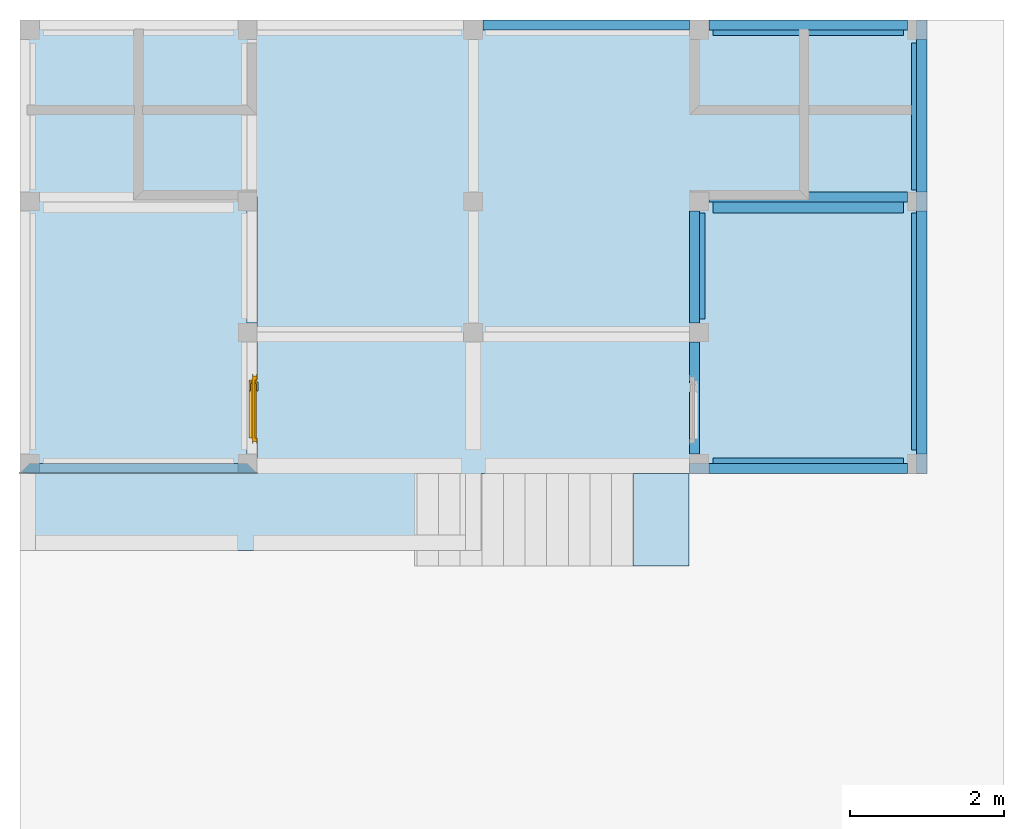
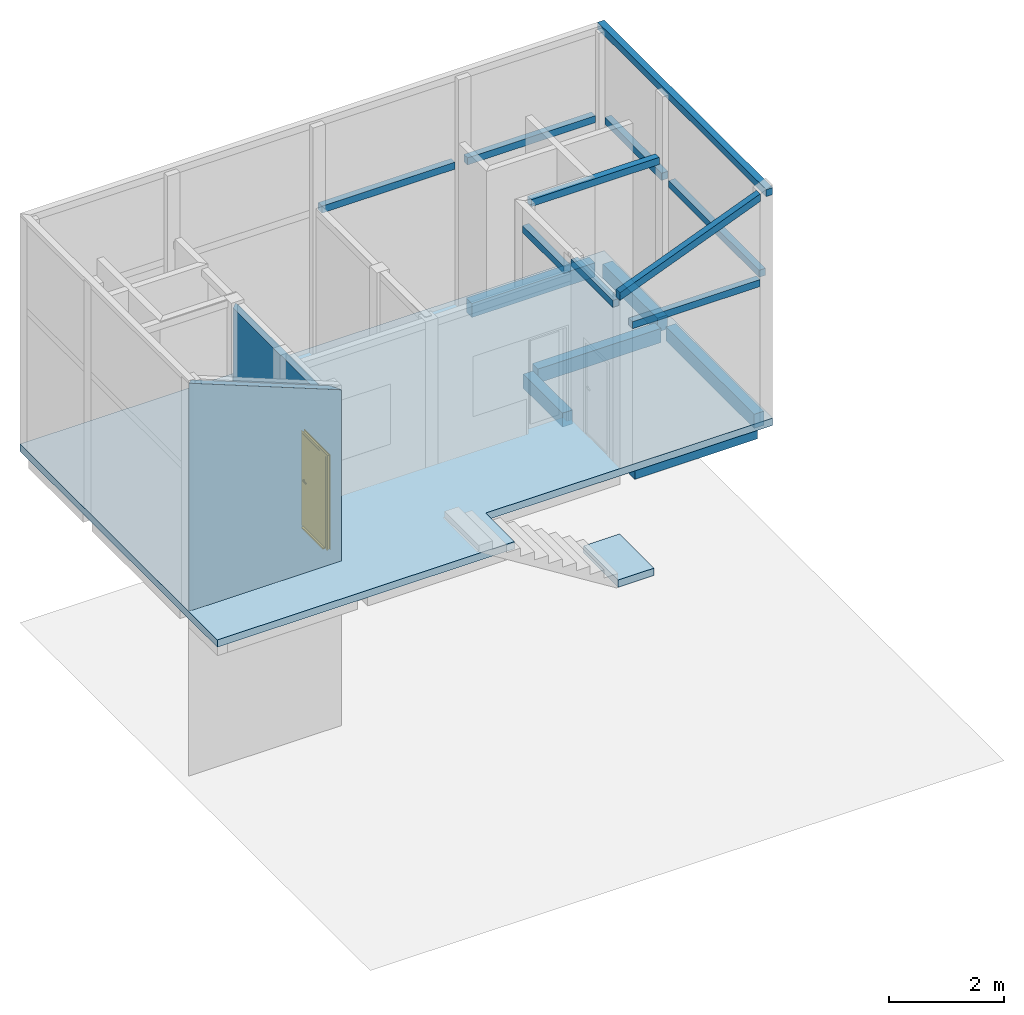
# One storey, part 2 of 8: 16 beams, 2 slabs, 2 walls, 1 door, 1 opening, 1 element without a shape of its own.
"""IFC4X3_ADD2 building model written with IfcOpenShell, lengths in millimetres."""

from ifc_helpers import new_model, entity, si_unit, converted_unit, frame, origin_with_axes, origin_2d_with_axis, place, context, subcontext, project, spatial, line, indexed_curve, rectangle, outline, extrude, clip, halfspace, shape, source, transform, mapped, material, layer, layer_set, layer_usage, material_profile, profile_set, profile_usage, type_object, type_shapes, element, fill, aggregate, save


model = new_model("IFC4X3_ADD2")

# Units and contexts
model_context = context("Model", 3, precision=1e-05, world=origin_with_axes())
plan_context = context("Plan", 2, precision=1e-05, world=origin_2d_with_axis())
body_context_1 = subcontext(model_context, "Body", "Model", "MODEL_VIEW")
body_context_2 = subcontext(plan_context, "Body", "Plan", "PLAN_VIEW")
ifc_project = project(units=[si_unit("VOLUMEUNIT", "CUBIC_METRE"), si_unit("LENGTHUNIT", "METRE", prefix="MILLI"), converted_unit("PLANEANGLEUNIT", "degree", entity("IfcReal", 0.0174532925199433), si_unit("PLANEANGLEUNIT", "RADIAN"), dimensions=[0, 0, 0, 0, 0, 0, 0]), si_unit("AREAUNIT", "SQUARE_METRE")], contexts=[model_context, plan_context])

# Site, building, storey
site_placement = place(None, origin_with_axes())
site = spatial("IfcSite", under=ifc_project, at=site_placement, Name="My Site")
building_placement = place(site_placement, origin_with_axes())
building = spatial("IfcBuilding", under=site, at=building_placement, Name="My Building")
storey_placement = place(building_placement, origin_with_axes())
storey = spatial("IfcBuildingStorey", under=building, at=storey_placement, Name="Lantai 2")

# Beams
ifc_material_1 = material(Name="plester")
ifc_material_profile_1 = material_profile(ifc_material_1, rectangle(XDim=200.0, YDim=300.0))
ifc_profile_set_1 = profile_set([ifc_material_profile_1])
ifc_profile_usage_1 = profile_usage(ifc_profile_set_1, cardinal=9)
beam_type_1 = type_object("IfcBeamType", Name="TB1", PredefinedType="BEAM", material=ifc_profile_set_1)
beam_1_placement = place(storey_placement, frame((8819.99969482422, -150.000005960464, 3465.00015258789), z_axis=(0.999999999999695, -5.52334768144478e-07, 5.52335052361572e-07), x_axis=(5.52335052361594e-07, 0.999999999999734, -4.76836987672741e-07)))
element("IfcBeam", 1, at=beam_1_placement, inside=storey, type_object=beam_type_1, material=ifc_profile_usage_1, Name="Beam", context=body_context_1, shape_type="SweptSolid", body=[
    extrude(rectangle(XDim=200.0, YDim=300.0), frame((100.0, -150.0, 0.0), z_axis=(0.0, 0.0, 1.0), x_axis=(1.0, 0.0, 0.0)), (0.0, 0.0, 1.0), 2470.00119336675),
])
ifc_profile_usage_2 = profile_usage(ifc_profile_set_1, cardinal=9)
beam_2_placement = place(storey_placement, frame((11590.0001525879, 150.000005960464, 3465.00015258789), z_axis=(-1.5099578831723e-07, 0.999999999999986, 7.54979012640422e-08), x_axis=(-0.999999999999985, -1.50995802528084e-07, 8.74228405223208e-08)))
element("IfcBeam", 2, at=beam_2_placement, inside=storey, type_object=beam_type_1, material=ifc_profile_usage_2, Name="Beam", context=body_context_1, shape_type="SweptSolid", body=[
    extrude(rectangle(XDim=200.0, YDim=300.0), frame((100.0, -150.0, 0.0), z_axis=(0.0, 0.0, 1.0), x_axis=(1.0, 0.0, 0.0)), (0.0, 0.0, 1.0), 3069.99969830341),
])
ifc_profile_usage_3 = profile_usage(ifc_profile_set_1, cardinal=9)
beam_3_placement = place(storey_placement, frame((11290.0009155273, 5719.99979019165, 3465.00015258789), z_axis=(-0.999999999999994, -7.54979012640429e-08, 7.54979012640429e-08), x_axis=(7.54979012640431e-08, -0.999999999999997, -7.16093850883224e-15)))
element("IfcBeam", 3, at=beam_3_placement, inside=storey, type_object=beam_type_1, material=ifc_profile_usage_3, Name="Beam", context=body_context_1, shape_type="SweptSolid", body=[
    extrude(rectangle(XDim=200.0, YDim=300.0), frame((100.0, -150.0, 0.0), z_axis=(0.0, 0.0, 1.0), x_axis=(1.0, 0.0, 0.0)), (0.0, 0.0, 1.0), 2470.00119336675),
])
ifc_profile_usage_4 = profile_usage(ifc_profile_set_1, cardinal=9)
beam_4_placement = place(storey_placement, frame((8819.99969482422, 3219.99979019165, 3465.00015258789), z_axis=(0.999999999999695, -5.52334768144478e-07, 5.52335052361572e-07), x_axis=(5.52335052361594e-07, 0.999999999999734, -4.76836987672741e-07)))
element("IfcBeam", 4, at=beam_4_placement, inside=storey, type_object=beam_type_1, material=ifc_profile_usage_4, Name="Beam", context=body_context_1, shape_type="SweptSolid", body=[
    extrude(rectangle(XDim=200.0, YDim=300.0), frame((100.0, -150.0, 0.0), z_axis=(0.0, 0.0, 1.0), x_axis=(1.0, 0.0, 0.0)), (0.0, 0.0, 1.0), 2470.00119336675),
])
ifc_profile_usage_5 = profile_usage(ifc_profile_set_1, cardinal=9)
beam_5_placement = place(storey_placement, frame((11590.0001525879, 3519.99998092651, 3465.00015258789), z_axis=(-1.5099578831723e-07, 0.999999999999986, 7.54979012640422e-08), x_axis=(-0.999999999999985, -1.50995802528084e-07, 8.74228405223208e-08)))
element("IfcBeam", 5, at=beam_5_placement, inside=storey, type_object=beam_type_1, material=ifc_profile_usage_5, Name="Beam", context=body_context_1, shape_type="SweptSolid", body=[
    extrude(rectangle(XDim=200.0, YDim=300.0), frame((100.0, -150.0, 0.0), z_axis=(0.0, 0.0, 1.0), x_axis=(1.0, 0.0, 0.0)), (0.0, 0.0, 1.0), 1899.99959594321),
])
ifc_profile_usage_6 = profile_usage(ifc_profile_set_1, cardinal=9)
beam_6_placement = place(storey_placement, frame((8520.00045776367, 3219.99979019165, 3465.00015258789), z_axis=(0.0, -0.999999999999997, 7.54979012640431e-08), x_axis=(1.0, 0.0, 0.0)))
element("IfcBeam", 6, at=beam_6_placement, inside=storey, type_object=beam_type_1, material=ifc_profile_usage_6, Name="Beam", context=body_context_1, shape_type="SweptSolid", body=[
    extrude(rectangle(XDim=200.0, YDim=300.0), frame((100.0, -150.0, 0.0), z_axis=(0.0, 0.0, 1.0), x_axis=(1.0, 0.0, 0.0)), (0.0, 0.0, 1.0), 1369.9999845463),
])
ifc_material_profile_2 = material_profile(ifc_material_1, rectangle(XDim=130.000015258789, YDim=150.0))
ifc_profile_set_2 = profile_set([ifc_material_profile_2])
ifc_profile_usage_7 = profile_usage(ifc_profile_set_2, cardinal=9)
beam_type_2 = type_object("IfcBeamType", Name="RB", PredefinedType="BEAM", material=ifc_profile_set_2)
beam_7_placement = place(storey_placement, frame((8380.53131103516, -150.998771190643, 7179.43334579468), z_axis=(0.929791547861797, -1.97479659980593e-07, 0.368086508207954), x_axis=(1.94707183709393e-07, 0.99999999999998, 4.46704007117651e-08)))
element("IfcBeam", 7, at=beam_7_placement, inside=storey, type_object=beam_type_2, material=ifc_profile_usage_7, Name="Beam", context=body_context_1, shape_type="Clipping", body=[
    clip(clip(extrude(rectangle(XDim=130.000015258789, YDim=150.0), frame((65.0000076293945, -75.0, 0.0), z_axis=(0.0, 0.0, 1.0), x_axis=(1.0, 0.0, 0.0)), (0.0, 0.0, 1.0), 3332.93833577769), halfspace(frame((125.999629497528, -4510.44654846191, 1397.33922481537), z_axis=(1.94707169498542e-07, -0.368086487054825, 0.929791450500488), x_axis=(-0.99999999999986, -5.28971250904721e-07, 0.0)), False)), halfspace(frame((125.999078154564, -3472.44238853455, -1224.67291355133), z_axis=(-1.94707169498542e-07, 0.368086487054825, -0.929791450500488), x_axis=(0.99999999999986, 5.28971250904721e-07, 0.0)), False)),
])
ifc_profile_usage_8 = profile_usage(ifc_profile_set_2, cardinal=9)
beam_8_placement = place(storey_placement, frame((11590.0020599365, -150.999471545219, 8398.53572845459), z_axis=(-8.74227765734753e-08, 0.999999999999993, 7.54979012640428e-08), x_axis=(-0.999999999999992, -8.74227765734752e-08, 8.74227836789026e-08)))
element("IfcBeam", 8, at=beam_8_placement, inside=storey, type_object=beam_type_2, material=ifc_profile_usage_8, Name="Beam", context=body_context_1, shape_type="SweptSolid", body=[
    extrude(rectangle(XDim=130.000015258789, YDim=150.0), frame((65.0000076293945, -75.0, 0.0), z_axis=(0.0, 0.0, 1.0), x_axis=(1.0, 0.0, 0.0)), (0.0, 0.0, 1.0), 5870.97029768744),
])
ifc_profile_usage_9 = profile_usage(ifc_profile_set_2, cardinal=9)
beam_9_placement = place(storey_placement, frame((8770.00045776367, -149.999976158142, 6532.21082687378), z_axis=(0.999999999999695, -5.52334768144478e-07, 5.52335052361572e-07), x_axis=(5.52335052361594e-07, 0.999999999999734, -4.76836987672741e-07)))
element("IfcBeam", 9, at=beam_9_placement, inside=storey, type_object=beam_type_2, material=ifc_profile_usage_9, Name="Beam", context=body_context_1, shape_type="SweptSolid", body=[
    extrude(rectangle(XDim=130.000015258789, YDim=150.0), frame((65.0000076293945, -75.0, 0.0), z_axis=(0.0, 0.0, 1.0), x_axis=(1.0, 0.0, 0.0)), (0.0, 0.0, 1.0), 2569.99969898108),
])
ifc_profile_usage_10 = profile_usage(ifc_profile_set_2, cardinal=9)
beam_10_placement = place(storey_placement, frame((11340.0001525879, 5719.99979019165, 6532.21082687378), z_axis=(-0.999999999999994, -7.54979012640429e-08, 7.54979012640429e-08), x_axis=(7.54979012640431e-08, -0.999999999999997, -7.16093850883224e-15)))
element("IfcBeam", 10, at=beam_10_placement, inside=storey, type_object=beam_type_2, material=ifc_profile_usage_10, Name="Beam", context=body_context_1, shape_type="SweptSolid", body=[
    extrude(rectangle(XDim=130.000015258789, YDim=150.0), frame((65.0000076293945, -75.0, 0.0), z_axis=(0.0, 0.0, 1.0), x_axis=(1.0, 0.0, 0.0)), (0.0, 0.0, 1.0), 2569.99969898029),
])
ifc_profile_usage_11 = profile_usage(ifc_profile_set_2)
beam_11_placement = place(storey_placement, frame((8770.00045776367, 3429.99982833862, 6919.12317276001), z_axis=(0.999999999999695, -5.52334768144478e-07, 5.52335052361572e-07), x_axis=(5.52335052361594e-07, 0.999999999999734, -4.76836987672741e-07)))
element("IfcBeam", 11, at=beam_11_placement, inside=storey, type_object=beam_type_2, material=ifc_profile_usage_11, Name="Beam", context=body_context_1, shape_type="SweptSolid", body=[
    extrude(rectangle(XDim=130.000015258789, YDim=150.0), origin_with_axes(), (0.0, 0.0, 1.0), 2569.99969898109),
])
ifc_profile_usage_12 = profile_usage(ifc_profile_set_2, cardinal=9)
beam_12_placement = place(storey_placement, frame((8520.00045776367, 5719.99979019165, 6532.21082687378), z_axis=(-0.999999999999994, -7.54979012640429e-08, 7.54979012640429e-08), x_axis=(7.54979012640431e-08, -0.999999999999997, -7.16093850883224e-15)))
element("IfcBeam", 12, at=beam_12_placement, inside=storey, type_object=beam_type_2, material=ifc_profile_usage_12, Name="Beam", context=body_context_1, shape_type="SweptSolid", body=[
    extrude(rectangle(XDim=130.000015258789, YDim=150.0), frame((65.0000076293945, -75.0, 0.0), z_axis=(0.0, 0.0, 1.0), x_axis=(1.0, 0.0, 0.0)), (0.0, 0.0, 1.0), 2675.00015330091),
])
ifc_profile_usage_13 = profile_usage(ifc_profile_set_2, cardinal=9)
beam_13_placement = place(storey_placement, frame((11590.0001525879, 100.000463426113, 6532.21082687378), z_axis=(-1.5099578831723e-07, 0.999999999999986, 7.54979012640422e-08), x_axis=(-0.999999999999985, -1.50995802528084e-07, 8.74228476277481e-08)))
element("IfcBeam", 13, at=beam_13_placement, inside=storey, type_object=beam_type_2, material=ifc_profile_usage_13, Name="Beam", context=body_context_1, shape_type="SweptSolid", body=[
    extrude(rectangle(XDim=130.000015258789, YDim=150.0), frame((65.0000076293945, -75.0, 0.0), z_axis=(0.0, 0.0, 1.0), x_axis=(1.0, 0.0, 0.0)), (0.0, 0.0, 1.0), 3144.99978312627),
])
ifc_profile_usage_14 = profile_usage(ifc_profile_set_2)
beam_14_placement = place(storey_placement, frame((8585.00003814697, 3244.99988555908, 6532.21082687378), z_axis=(0.0, -0.999999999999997, 7.54979012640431e-08), x_axis=(1.0, 0.0, 0.0)))
element("IfcBeam", 14, at=beam_14_placement, inside=storey, type_object=beam_type_2, material=ifc_profile_usage_14, Name="Beam", context=body_context_1, shape_type="SweptSolid", body=[
    extrude(rectangle(XDim=130.000015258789, YDim=150.0), origin_with_axes(), (0.0, 0.0, 1.0), 1444.99970221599),
])
ifc_profile_usage_15 = profile_usage(ifc_profile_set_2, cardinal=9)
beam_15_placement = place(storey_placement, frame((11590.0001525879, 3494.99988555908, 6532.21082687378), z_axis=(-1.5099578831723e-07, 0.999999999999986, 7.54979012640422e-08), x_axis=(-0.999999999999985, -1.50995802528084e-07, 8.74228476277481e-08)))
element("IfcBeam", 15, at=beam_15_placement, inside=storey, type_object=beam_type_2, material=ifc_profile_usage_15, Name="Beam", context=body_context_1, shape_type="SweptSolid", body=[
    extrude(rectangle(XDim=130.000015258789, YDim=150.0), frame((65.0000076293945, -75.0, 0.0), z_axis=(0.0, 0.0, 1.0), x_axis=(1.0, 0.0, 0.0)), (0.0, 0.0, 1.0), 1974.99987686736),
])
ifc_profile_usage_16 = profile_usage(ifc_profile_set_2, cardinal=9)
beam_16_placement = place(storey_placement, frame((8650.00057220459, 100.000470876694, 6922.07622528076), z_axis=(-1.5099578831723e-07, 0.999999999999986, 7.54979012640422e-08), x_axis=(-0.999999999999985, -1.50995802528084e-07, 8.74228192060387e-08)))
element("IfcBeam", 16, at=beam_16_placement, inside=storey, type_object=beam_type_2, material=ifc_profile_usage_16, Name="Beam", context=body_context_1, shape_type="SweptSolid", body=[
    extrude(rectangle(XDim=130.000015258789, YDim=150.0), frame((65.0000076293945, -75.0, 0.0), z_axis=(0.0, 0.0, 1.0), x_axis=(1.0, 0.0, 0.0)), (0.0, 0.0, 1.0), 1449.99965799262),
])

# Slabs
ifc_material_2 = material(Name="concrete")
ifc_layer_1 = layer(ifc_material_2, 120.000007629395)
ifc_material_3 = material(Name="keramik")
ifc_layer_2 = layer(ifc_material_3, 35.0)
ifc_layer_set_1 = layer_set([ifc_layer_1, ifc_layer_2])
ifc_layer_usage_1 = layer_usage(ifc_layer_set_1, "AXIS3", "POSITIVE", -155.0)
slab_type = type_object("IfcSlabType", Name="concrete slab", PredefinedType="FLOOR", material=ifc_layer_set_1)
slab_1_placement = place(storey_placement, frame((-149.999558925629, 5719.99979019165, 3500.00023841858), z_axis=(0.0, 0.0, 1.0), x_axis=(1.0, 0.0, 0.0)))
element("IfcSlab", 17, at=slab_1_placement, inside=storey, type_object=slab_type, material=ifc_layer_usage_1, Name="Slab", context=body_context_1, shape_type="SweptSolid", body=[
    extrude(outline(indexed_curve([(11739.998046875, 0.0), (0.0, 0.0), (-0.000447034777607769, -6869.99853515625), (5969.9990234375, -6869.99853515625), (5969.9990234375, -5869.99951171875), (11739.998046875, -5870.99951171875), (11739.998046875, 0.0)])), frame((0.0, 0.0, -155.0), z_axis=(0.0, 0.0, 1.0), x_axis=(1.0, 0.0, 0.0)), (0.0, 0.0, 1.0), 155.000007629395),
])
ifc_layer_usage_2 = layer_usage(ifc_layer_set_1, "AXIS3", "POSITIVE", -155.000015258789)
slab_2_placement = place(storey_placement, frame((8419.00253295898, -151.050180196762, 2115.00024795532), z_axis=(0.0, 0.0, 1.0), x_axis=(1.0, 0.0, 0.0)))
element("IfcSlab", 18, at=slab_2_placement, inside=storey, type_object=slab_type, material=ifc_layer_usage_2, Name="Slab", context=body_context_1, shape_type="SweptSolid", body=[
    extrude(outline(indexed_curve([(90.9967269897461, 0.0), (-629.230224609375, -5.9604637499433e-05), (-629.230224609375, -1199.95092773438), (90.9976806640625, -1199.95080566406), (90.9967269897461, 0.0)])), frame((0.0, 0.0, -155.000015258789), z_axis=(0.0, 0.0, 1.0), x_axis=(1.0, 0.0, 0.0)), (0.0, 0.0, 1.0), 155.000007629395),
])

# Wall, opening, door
ifc_layer_3 = layer(ifc_material_1, 15.0000009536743, Priority=1)
ifc_material_4 = material(Name="brick", Category="Uncategorised")
ifc_layer_4 = layer(ifc_material_4, 100.0, Priority=4)
ifc_layer_5 = layer(ifc_material_1, 15.0000009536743)
ifc_layer_set_2 = layer_set([ifc_layer_3, ifc_layer_4, ifc_layer_5])
ifc_layer_usage_3 = layer_usage(ifc_layer_set_2, "AXIS2", "NEGATIVE", 130.0)
wall_type = type_object("IfcWallType", Name="WALL-130", PredefinedType="SOLIDWALL", material=ifc_layer_set_2)
wall_1_placement = place(storey_placement, frame((2920.00007629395, -20.0000032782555, 3500.00023841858), z_axis=(0.0, 0.0, 1.0), x_axis=(1.94707183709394e-07, 0.999999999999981, 0.0)))
wall_1 = element("IfcWall", 19, at=wall_1_placement, inside=storey, type_object=wall_type, material=ifc_layer_usage_3, Name="Wall", context=body_context_1, shape_type="SweptSolid", body=[
    extrude(outline(indexed_curve([(-130.000001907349, -1.90734860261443e-06), (-115.000001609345, 14.9999990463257), (-15.0000059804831, 114.999999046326), (-5.68247955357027e-06, 130.0), (3410.00007142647, 130.0), (3425.00007238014, 130.0), (3425.00007530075, 114.999999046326), (3525.00009477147, 14.9999990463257), (3425.00009769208, -1.90734860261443e-06)], segments=[line(1, 2, 3, 4, 5, 6, 7, 8, 9, 1)])), origin_with_axes(), (0.0, 0.0, 1.0), 3272.07589149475),
])
shared_shape_1 = source(origin_with_axes(), body_context_1, "Body", "SweptSolid", [
    extrude(outline(indexed_curve([(0.0, 0.0), (850.0, 0.0), (850.0, 2000.0), (0.0, 2000.0)], segments=[line(1, 2, 3, 4, 1)])), frame((0.0, -600.0, 0.0), z_axis=(0.0, -1.0, 0.0), x_axis=(1.0, 0.0, 0.0)), (0.0, 0.0, -1.0), 1200.0),
])
opening_placement = place(wall_1_placement, frame((280.855447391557, -39.9996687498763, 0.0), z_axis=(0.0, 0.0, 1.0), x_axis=(0.999999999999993, -1.19209289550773e-07, 0.0)))
opening = element("IfcOpeningElement", 20, at=opening_placement, cuts=wall_1, Name="Opening", PredefinedType="OPENING", context=body_context_1, shape_type="MappedRepresentation", body=[
    mapped(shared_shape_1, transform((0.0, 0.0, 0.0), x_axis=(1.0, 0.0, 0.0), y_axis=(0.0, 1.0, 0.0), z_axis=(0.0, 0.0, 1.0), scale=1.0)),
])
door_type = type_object("IfcDoorType", Name="D01 L", OperationType="SINGLE_SWING_LEFT", PredefinedType="BOOM_BARRIER")
shared_shape_2 = source(origin_with_axes(), body_context_1, "Body", "SweptSolid", [
    extrude(outline(indexed_curve([(0.0, 0.0), (0.0, 2000.0), (850.000023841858, 2000.0), (850.000023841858, 0.0), (825.000023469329, 0.0), (825.000023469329, 1974.99999962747), (25.000000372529, 1974.99999962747), (25.000000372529, 0.0)], segments=[line(1, 2, 3, 4, 5, 6, 7, 8, 1)])), frame((0.0, 25.000000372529, 0.0), z_axis=(0.0, -1.0, 0.0), x_axis=(1.0, 0.0, 0.0)), (0.0, 0.0, -1.0), 25.000000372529),
    extrude(outline(indexed_curve([(0.0, 0.0), (0.0, 2000.0), (850.000023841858, 2000.0), (850.000023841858, 0.0), (800.0000230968, 0.0), (800.0000230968, 1949.99999925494), (50.0000007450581, 1949.99999925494), (50.0000007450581, 0.0)], segments=[line(1, 2, 3, 4, 5, 6, 7, 8, 1)])), frame((0.0, 0.0, 0.0), z_axis=(0.0, -1.0, 0.0), x_axis=(1.0, 0.0, 0.0)), (0.0, 0.0, -1.0), 25.000000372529),
    extrude(outline(indexed_curve([(0.0, 0.0), (800.0000230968, 0.0), (800.0000230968, 35.0000001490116), (0.0, 35.0000001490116)], segments=[line(1, 2, 3, 4, 1)])), frame((25.000000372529, 25.000000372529, 25.000000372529), z_axis=(0.0, 0.0, 1.0), x_axis=(1.0, 0.0, 0.0)), (0.0, 0.0, 1.0), 1949.99999925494),
    extrude(outline(indexed_curve([(0.0, 0.0), (0.0, -40.0), (-120.0, -40.0), (-120.0, -20.0), (-20.0, -20.0), (-20.0, 0.0)], segments=[line(1, 2, 3, 4, 5, 6, 1)])), frame((775.000023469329, 25.000000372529, 1015.00000037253), z_axis=(0.0, 0.0, 1.0), x_axis=(1.0, 0.0, 0.0)), (0.0, 0.0, 1.0), 20.0),
    extrude(outline(indexed_curve([(0.0, 0.0), (0.0, 40.0), (-120.0, 40.0), (-120.0, 20.0), (-20.0, 20.0), (-20.0, 0.0)], segments=[line(1, 2, 3, 4, 5, 6, 1)])), frame((775.000023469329, 60.0000005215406, 1015.00000037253), z_axis=(0.0, 0.0, 1.0), x_axis=(1.0, 0.0, 0.0)), (0.0, 0.0, 1.0), 20.0),
    extrude(outline(indexed_curve([(0.0, 0.0), (750.000022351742, 0.0), (750.000022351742, 100.000001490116), (0.0, 100.000001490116)], segments=[line(1, 2, 3, 4, 1)])), frame((50.0000007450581, 0.0, 0.0), z_axis=(0.0, 0.0, 1.0), x_axis=(1.0, 0.0, 0.0)), (0.0, 0.0, 1.0), 25.000000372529),
    extrude(outline(indexed_curve([(0.0, 0.0), (0.0, 2025.00000223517), (900.000028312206, 2025.00000223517), (900.000028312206, 0.0), (825.000025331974, 0.0), (825.000025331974, 1949.99999925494), (75.0000029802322, 1949.99999925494), (75.0000029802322, 0.0)], segments=[line(1, 2, 3, 4, 5, 6, 7, 8, 1)])), frame((-25.0000022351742, -4.99999988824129, 0.0), z_axis=(0.0, -1.0, 0.0), x_axis=(1.0, 0.0, 0.0)), (0.0, 0.0, -1.0), 4.99999988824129),
    extrude(outline(indexed_curve([(0.0, 0.0), (0.0, 2025.00000223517), (900.000028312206, 2025.00000223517), (900.000028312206, 0.0), (850.000025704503, 0.0), (850.000025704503, 1974.99999962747), (50.0000026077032, 1974.99999962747), (50.0000026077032, 0.0)], segments=[line(1, 2, 3, 4, 5, 6, 7, 8, 1)])), frame((-25.0000022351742, 50.0000007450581, 0.0), z_axis=(0.0, -1.0, 0.0), x_axis=(1.0, 0.0, 0.0)), (0.0, 0.0, -1.0), 4.99999988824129),
])
shared_shape_3 = source(origin_with_axes(), body_context_2, "Body", "Curve2D", [
    entity("IfcIndexedPolyCurve", entity("IfcCartesianPointList2D", [[0.0, 0.0], [0.0, 50.0000007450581], [25.000000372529, 50.0000007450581], [25.000000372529, 25.000000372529], [50.0000007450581, 25.000000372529], [50.0000007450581, 0.0]]), [entity("IfcLineIndex", [1, 2, 3, 4, 5, 6, 1])]),
    entity("IfcIndexedPolyCurve", entity("IfcCartesianPointList2D", [[850.000023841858, 0.0], [850.000023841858, 50.0000007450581], [825.000023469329, 50.0000007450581], [825.000023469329, 25.000000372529], [800.0000230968, 25.000000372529], [800.0000230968, 0.0]]), [entity("IfcLineIndex", [1, 2, 3, 4, 5, 6, 1])]),
    entity("IfcTrimmedCurve", entity("IfcEllipse", entity("IfcAxis2Placement2D", entity("IfcCartesianPoint", [60.0000005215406, 50.0000007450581]), entity("IfcDirection", [1.0, 0.0])), 765.000022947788, 800.0000230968), [entity("IfcCartesianPoint", [825.000023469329, 50.0000007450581])], [entity("IfcCartesianPoint", [60.0000005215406, 850.000023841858])], True, "CARTESIAN"),
    entity("IfcIndexedPolyCurve", entity("IfcCartesianPointList2D", [[25.000000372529, 50.0000007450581], [60.0000005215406, 50.0000007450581], [60.0000005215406, 850.000023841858], [25.000000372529, 850.000023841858]]), [entity("IfcLineIndex", [1, 2, 3, 4, 1])]),
])
type_shapes(door_type, [shared_shape_2, shared_shape_3])
door_placement = place(opening_placement, frame((-1.4126115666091e-05, 44.9995994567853, 0.0), z_axis=(0.0, 0.0, 1.0), x_axis=(1.0, 0.0, 0.0)))
door = element("IfcDoor", 21, at=door_placement, inside=storey, type_object=door_type, Name="Door", OverallHeight=2000.0, OverallWidth=850.000023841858, shapes=[
    shape(body_context_1, "Body", "MappedRepresentation", [mapped(shared_shape_2, transform((0.0, 0.0, 0.0), x_axis=(1.0, 0.0, 0.0), y_axis=(0.0, 1.0, 0.0), z_axis=(0.0, 0.0, 1.0), scale=1.0))]),
    shape(body_context_2, "Body", "MappedRepresentation", [mapped(shared_shape_3, transform((0.0, 0.0, 0.0), x_axis=(1.0, 0.0, 0.0), y_axis=(0.0, 1.0, 0.0), z_axis=(0.0, 0.0, 1.0), scale=1.0))]),
])
fill(opening, door)

# Assembly, wall
assembly_placement = place(storey_placement, frame((753.33571434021, -149.999678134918, 0.0), z_axis=(0.0, 0.0, 1.0), x_axis=(1.0, 0.0, 0.0)))
assembly = element("IfcElementAssembly", 22, at=assembly_placement, inside=storey, Name="wall")
ifc_layer_usage_4 = layer_usage(ifc_layer_set_2, "AXIS2", "POSITIVE", 0.0)
wall_2_placement = place(assembly_placement, frame((2166.66436195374, 129.999674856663, 3500.00023841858), z_axis=(0.0, 0.0, 1.0), x_axis=(-0.999999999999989, 1.50995802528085e-07, 0.0)))
wall_2 = element("IfcWall", 23, at=wall_2_placement, type_object=wall_type, material=ifc_layer_usage_4, Name="Wall", context=body_context_1, shape_type="Clipping", body=[
    clip(extrude(outline(indexed_curve([(130.0, 0.0), (114.999999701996, 15.0000009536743), (15.0000040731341, 115.000000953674), (3.77513057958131e-06, 130.000001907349), (2955.00007208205, 130.000001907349), (3055.00007142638, 115.000000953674), (2955.00006705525, 15.0000009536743), (2955.00006639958, 0.0), (2940.0000654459, 0.0)], segments=[line(1, 2, 3, 4, 5, 6, 7, 8, 9, 1)])), origin_with_axes(), (0.0, 0.0, 1.0), 4850.00038146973), halfspace(frame((1708.18579101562, -460.210113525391, 4310.88427734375), z_axis=(-0.368086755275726, -5.55795551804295e-08, 0.929791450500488), x_axis=(-0.929791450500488, 1.06011981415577e-08, -0.368086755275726)), False)),
])
aggregate(assembly, [wall_2])

save(model, "model.ifc")
